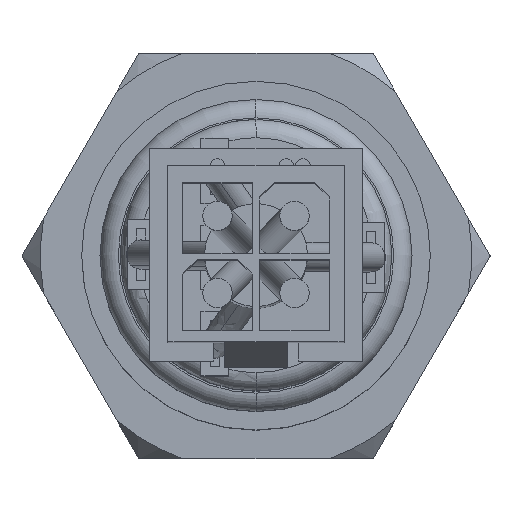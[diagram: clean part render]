
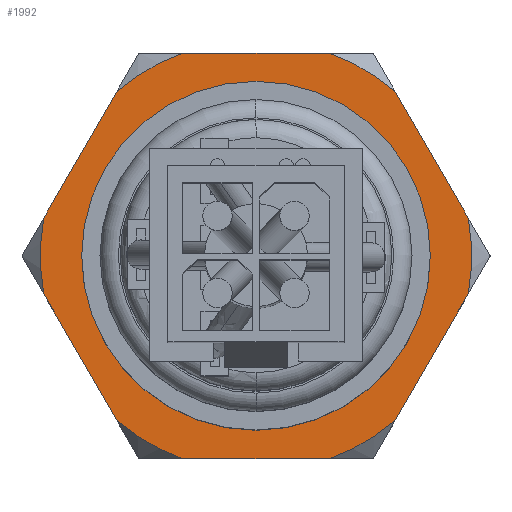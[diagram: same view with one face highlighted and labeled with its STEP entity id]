
A CAD part, top view. The second image highlights one B-rep face of the part: STEP entity #1992.
In plain terms, the highlighted planar face has unit normal (0, 0, 1) as drawn and (0, -1, 0) by its records, which use the part's own axes.
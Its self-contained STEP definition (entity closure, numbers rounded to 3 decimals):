
#7 = ORIENTED_EDGE ( 'NONE', *, *, #1076, .T. ) ;
#156 = CARTESIAN_POINT ( 'NONE',  ( 7.572, -4., 8.985 ) ) ;
#226 = ORIENTED_EDGE ( 'NONE', *, *, #3222, .T. ) ;
#302 = VECTOR ( 'NONE', #3320, 1000. ) ;
#726 = VERTEX_POINT ( 'NONE', #2156 ) ;
#758 = DIRECTION ( 'NONE',  ( 0., -1., 0. ) ) ;
#787 = AXIS2_PLACEMENT_3D ( 'NONE', #5791, #6462, #2352 ) ;
#824 = CARTESIAN_POINT ( 'NONE',  ( -11.567, -4., 2.065 ) ) ;
#931 = ORIENTED_EDGE ( 'NONE', *, *, #4314, .T. ) ;
#964 = DIRECTION ( 'NONE',  ( 1., 0., 0. ) ) ;
#992 = PLANE ( 'NONE',  #787 ) ;
#1076 = EDGE_CURVE ( 'NONE', #7115, #2348, #1362, .T. ) ;
#1149 = VECTOR ( 'NONE', #7857, 1000. ) ;
#1362 = LINE ( 'NONE', #4500, #1149 ) ;
#1391 = VECTOR ( 'NONE', #4739, 1000. ) ;
#1420 = LINE ( 'NONE', #4103, #8217 ) ;
#1439 = EDGE_LOOP ( 'NONE', ( #5862, #3206 ) ) ;
#1487 = VECTOR ( 'NONE', #964, 1000. ) ;
#1632 = EDGE_CURVE ( 'NONE', #5265, #726, #2061, .T. ) ;
#1641 = CARTESIAN_POINT ( 'NONE',  ( -11.567, -4., -2.065 ) ) ;
#1659 = DIRECTION ( 'NONE',  ( 0., -1., 0. ) ) ;
#1694 = EDGE_CURVE ( 'NONE', #2562, #5252, #3242, .T. ) ;
#1754 = EDGE_CURVE ( 'NONE', #2930, #8338, #1420, .T. ) ;
#1966 = CARTESIAN_POINT ( 'NONE',  ( 0., -4., 0. ) ) ;
#1974 = ORIENTED_EDGE ( 'NONE', *, *, #4216, .T. ) ;
#1992 = ADVANCED_FACE ( 'NONE', ( #6348, #2903 ), #992, .T. ) ;
#2045 = CARTESIAN_POINT ( 'NONE',  ( 11.567, -4., -2.065 ) ) ;
#2061 = LINE ( 'NONE', #7364, #302 ) ;
#2156 = CARTESIAN_POINT ( 'NONE',  ( -7.572, -4., -8.985 ) ) ;
#2290 = CARTESIAN_POINT ( 'NONE',  ( 0., -4., 9.5 ) ) ;
#2348 = VERTEX_POINT ( 'NONE', #2045 ) ;
#2352 = DIRECTION ( 'NONE',  ( 0., 0., -1. ) ) ;
#2413 = VERTEX_POINT ( 'NONE', #8180 ) ;
#2545 = LINE ( 'NONE', #6317, #3945 ) ;
#2562 = VERTEX_POINT ( 'NONE', #5100 ) ;
#2634 = DIRECTION ( 'NONE',  ( 0., 0., -1. ) ) ;
#2697 = CARTESIAN_POINT ( 'NONE',  ( 3.995, -4., -11.05 ) ) ;
#2713 = ORIENTED_EDGE ( 'NONE', *, *, #3426, .T. ) ;
#2721 = DIRECTION ( 'NONE',  ( 0., -1., 0. ) ) ;
#2725 = CIRCLE ( 'NONE', #4630, 11.75 ) ;
#2894 = ORIENTED_EDGE ( 'NONE', *, *, #5027, .T. ) ;
#2903 = FACE_BOUND ( 'NONE', #1439, .T. ) ;
#2908 = CARTESIAN_POINT ( 'NONE',  ( 0., -4., 0. ) ) ;
#2930 = VERTEX_POINT ( 'NONE', #8571 ) ;
#2953 = CARTESIAN_POINT ( 'NONE',  ( 7.572, -4., -8.985 ) ) ;
#3008 = EDGE_LOOP ( 'NONE', ( #3645, #6464, #3617, #5255, #931, #5454, #7, #2894, #1974, #2713, #5363, #226 ) ) ;
#3041 = VERTEX_POINT ( 'NONE', #3533 ) ;
#3185 = CIRCLE ( 'NONE', #8433, 9.5 ) ;
#3206 = ORIENTED_EDGE ( 'NONE', *, *, #5051, .F. ) ;
#3222 = EDGE_CURVE ( 'NONE', #5111, #2930, #2725, .T. ) ;
#3242 = CIRCLE ( 'NONE', #5717, 9.5 ) ;
#3320 = DIRECTION ( 'NONE',  ( 0.5, 0., -0.866 ) ) ;
#3399 = CARTESIAN_POINT ( 'NONE',  ( 0., -4., 0. ) ) ;
#3400 = CIRCLE ( 'NONE', #7553, 11.75 ) ;
#3426 = EDGE_CURVE ( 'NONE', #6459, #2413, #7688, .T. ) ;
#3452 = CARTESIAN_POINT ( 'NONE',  ( 0., -4., 0. ) ) ;
#3533 = CARTESIAN_POINT ( 'NONE',  ( 11.567, -4., 2.065 ) ) ;
#3617 = ORIENTED_EDGE ( 'NONE', *, *, #1632, .T. ) ;
#3619 = DIRECTION ( 'NONE',  ( 0., 0., -1. ) ) ;
#3645 = ORIENTED_EDGE ( 'NONE', *, *, #1754, .T. ) ;
#3706 = EDGE_CURVE ( 'NONE', #4040, #7115, #4166, .T. ) ;
#3744 = DIRECTION ( 'NONE',  ( 0., -1., 0. ) ) ;
#3887 = CARTESIAN_POINT ( 'NONE',  ( -3.995, -4., -11.05 ) ) ;
#3945 = VECTOR ( 'NONE', #4234, 1000. ) ;
#4015 = EDGE_CURVE ( 'NONE', #2413, #5111, #6841, .T. ) ;
#4027 = CARTESIAN_POINT ( 'NONE',  ( -19.678, -4., 11.05 ) ) ;
#4040 = VERTEX_POINT ( 'NONE', #2697 ) ;
#4075 = DIRECTION ( 'NONE',  ( 0., 0., -1. ) ) ;
#4103 = CARTESIAN_POINT ( 'NONE',  ( 0.269, -4., 22.566 ) ) ;
#4134 = DIRECTION ( 'NONE',  ( 0., 0., -1. ) ) ;
#4166 = CIRCLE ( 'NONE', #4737, 11.75 ) ;
#4216 = EDGE_CURVE ( 'NONE', #3041, #6459, #2545, .T. ) ;
#4234 = DIRECTION ( 'NONE',  ( -0.5, 0., 0.866 ) ) ;
#4245 = EDGE_CURVE ( 'NONE', #8338, #5265, #7358, .T. ) ;
#4314 = EDGE_CURVE ( 'NONE', #8075, #4040, #6727, .T. ) ;
#4500 = CARTESIAN_POINT ( 'NONE',  ( 19.408, -4., 11.516 ) ) ;
#4625 = AXIS2_PLACEMENT_3D ( 'NONE', #1966, #6744, #2634 ) ;
#4630 = AXIS2_PLACEMENT_3D ( 'NONE', #7812, #3744, #8460 ) ;
#4737 = AXIS2_PLACEMENT_3D ( 'NONE', #5773, #1659, #6444 ) ;
#4739 = DIRECTION ( 'NONE',  ( -1., 0., 0. ) ) ;
#4800 = DIRECTION ( 'NONE',  ( -0.5, 0., -0.866 ) ) ;
#4826 = CARTESIAN_POINT ( 'NONE',  ( 0., -4., 0. ) ) ;
#5027 = EDGE_CURVE ( 'NONE', #2348, #3041, #3400, .T. ) ;
#5045 = CARTESIAN_POINT ( 'NONE',  ( -19.678, -4., -11.05 ) ) ;
#5051 = EDGE_CURVE ( 'NONE', #5252, #2562, #3185, .T. ) ;
#5100 = CARTESIAN_POINT ( 'NONE',  ( 0., -4., -9.5 ) ) ;
#5111 = VERTEX_POINT ( 'NONE', #5567 ) ;
#5252 = VERTEX_POINT ( 'NONE', #2290 ) ;
#5255 = ORIENTED_EDGE ( 'NONE', *, *, #7390, .T. ) ;
#5265 = VERTEX_POINT ( 'NONE', #1641 ) ;
#5363 = ORIENTED_EDGE ( 'NONE', *, *, #4015, .T. ) ;
#5380 = AXIS2_PLACEMENT_3D ( 'NONE', #4826, #758, #5537 ) ;
#5454 = ORIENTED_EDGE ( 'NONE', *, *, #3706, .T. ) ;
#5537 = DIRECTION ( 'NONE',  ( 0., 0., -1. ) ) ;
#5567 = CARTESIAN_POINT ( 'NONE',  ( -3.995, -4., 11.05 ) ) ;
#5717 = AXIS2_PLACEMENT_3D ( 'NONE', #3399, #8125, #4075 ) ;
#5773 = CARTESIAN_POINT ( 'NONE',  ( 0., -4., 0. ) ) ;
#5791 = CARTESIAN_POINT ( 'NONE',  ( 0., -4., 0. ) ) ;
#5862 = ORIENTED_EDGE ( 'NONE', *, *, #1694, .F. ) ;
#5925 = AXIS2_PLACEMENT_3D ( 'NONE', #2908, #7684, #3619 ) ;
#6317 = CARTESIAN_POINT ( 'NONE',  ( -0.269, -4., 22.566 ) ) ;
#6348 = FACE_OUTER_BOUND ( 'NONE', #3008, .T. ) ;
#6444 = DIRECTION ( 'NONE',  ( 0., 0., -1. ) ) ;
#6459 = VERTEX_POINT ( 'NONE', #156 ) ;
#6462 = DIRECTION ( 'NONE',  ( 0., -1., 0. ) ) ;
#6464 = ORIENTED_EDGE ( 'NONE', *, *, #4245, .T. ) ;
#6727 = LINE ( 'NONE', #5045, #1487 ) ;
#6744 = DIRECTION ( 'NONE',  ( 0., -1., 0. ) ) ;
#6827 = CARTESIAN_POINT ( 'NONE',  ( 0., -4., 0. ) ) ;
#6841 = LINE ( 'NONE', #4027, #1391 ) ;
#7006 = CIRCLE ( 'NONE', #4625, 11.75 ) ;
#7115 = VERTEX_POINT ( 'NONE', #2953 ) ;
#7358 = CIRCLE ( 'NONE', #5925, 11.75 ) ;
#7364 = CARTESIAN_POINT ( 'NONE',  ( -19.408, -4., 11.516 ) ) ;
#7390 = EDGE_CURVE ( 'NONE', #726, #8075, #7006, .T. ) ;
#7495 = DIRECTION ( 'NONE',  ( 0., 0., -1. ) ) ;
#7553 = AXIS2_PLACEMENT_3D ( 'NONE', #6827, #2721, #7495 ) ;
#7684 = DIRECTION ( 'NONE',  ( 0., -1., 0. ) ) ;
#7688 = CIRCLE ( 'NONE', #5380, 11.75 ) ;
#7812 = CARTESIAN_POINT ( 'NONE',  ( 0., -4., 0. ) ) ;
#7857 = DIRECTION ( 'NONE',  ( 0.5, 0., 0.866 ) ) ;
#8075 = VERTEX_POINT ( 'NONE', #3887 ) ;
#8125 = DIRECTION ( 'NONE',  ( 0., -1., 0. ) ) ;
#8180 = CARTESIAN_POINT ( 'NONE',  ( 3.995, -4., 11.05 ) ) ;
#8183 = DIRECTION ( 'NONE',  ( 0., -1., 0. ) ) ;
#8217 = VECTOR ( 'NONE', #4800, 1000. ) ;
#8338 = VERTEX_POINT ( 'NONE', #824 ) ;
#8433 = AXIS2_PLACEMENT_3D ( 'NONE', #3452, #8183, #4134 ) ;
#8460 = DIRECTION ( 'NONE',  ( 0., 0., -1. ) ) ;
#8571 = CARTESIAN_POINT ( 'NONE',  ( -7.572, -4., 8.985 ) ) ;
